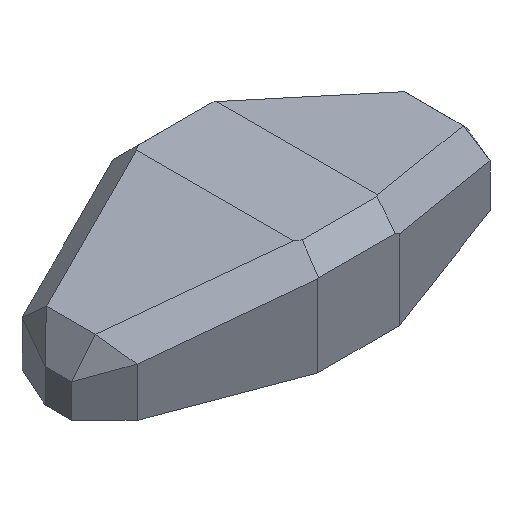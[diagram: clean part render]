
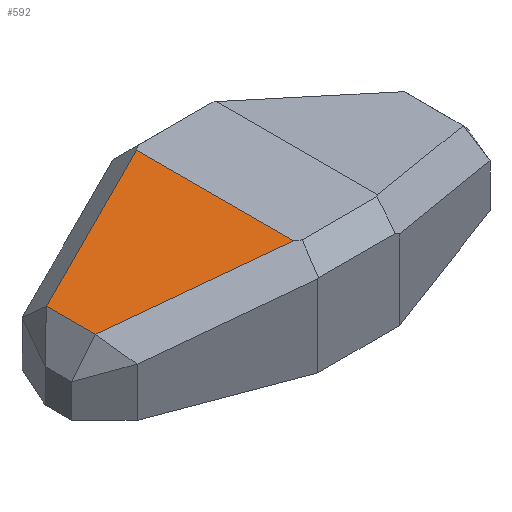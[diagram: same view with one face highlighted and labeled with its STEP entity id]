
A CAD part, isometric view. The second image highlights one B-rep face of the part: STEP entity #592.
In plain terms, the highlighted planar face has unit normal (-0.242, 0, 0.97).
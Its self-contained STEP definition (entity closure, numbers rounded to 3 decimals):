
#6 = ORIENTED_EDGE ( 'NONE', *, *, #45, .T. ) ;
#45 = EDGE_CURVE ( 'NONE', #142, #782, #786, .T. ) ;
#85 = CARTESIAN_POINT ( 'NONE',  ( -4.818, 0.484, 1.545 ) ) ;
#90 = CARTESIAN_POINT ( 'NONE',  ( -1., -2.5, 2.5 ) ) ;
#116 = ORIENTED_EDGE ( 'NONE', *, *, #500, .T. ) ;
#142 = VERTEX_POINT ( 'NONE', #865 ) ;
#146 = DIRECTION ( 'NONE',  ( -0.912, -0.342, -0.228 ) ) ;
#170 = FACE_OUTER_BOUND ( 'NONE', #668, .T. ) ;
#201 = VECTOR ( 'NONE', #146, 1000. ) ;
#221 = LINE ( 'NONE', #362, #355 ) ;
#224 = EDGE_CURVE ( 'NONE', #700, #142, #877, .T. ) ;
#266 = EDGE_CURVE ( 'NONE', #396, #700, #374, .T. ) ;
#302 = DIRECTION ( 'NONE',  ( 0., 1., 0. ) ) ;
#348 = CARTESIAN_POINT ( 'NONE',  ( -4.515, -1., 1.621 ) ) ;
#355 = VECTOR ( 'NONE', #514, 1000. ) ;
#362 = CARTESIAN_POINT ( 'NONE',  ( -0.818, -1.984, 2.545 ) ) ;
#367 = CARTESIAN_POINT ( 'NONE',  ( -1., -1.916, 2.5 ) ) ;
#374 = LINE ( 'NONE', #90, #582 ) ;
#393 = DIRECTION ( 'NONE',  ( 0.97, 0., 0.243 ) ) ;
#396 = VERTEX_POINT ( 'NONE', #367 ) ;
#402 = VECTOR ( 'NONE', #943, 1000. ) ;
#460 = PLANE ( 'NONE',  #496 ) ;
#475 = DIRECTION ( 'NONE',  ( -0.243, 0., 0.97 ) ) ;
#496 = AXIS2_PLACEMENT_3D ( 'NONE', #766, #475, #393 ) ;
#500 = EDGE_CURVE ( 'NONE', #782, #396, #221, .T. ) ;
#503 = CARTESIAN_POINT ( 'NONE',  ( -1., 1.916, 2.5 ) ) ;
#514 = DIRECTION ( 'NONE',  ( 0.912, -0.342, 0.228 ) ) ;
#549 = ORIENTED_EDGE ( 'NONE', *, *, #224, .T. ) ;
#582 = VECTOR ( 'NONE', #302, 1000. ) ;
#592 = ADVANCED_FACE ( 'NONE', ( #170 ), #460, .T. ) ;
#610 = ORIENTED_EDGE ( 'NONE', *, *, #266, .T. ) ;
#668 = EDGE_LOOP ( 'NONE', ( #6, #116, #610, #549 ) ) ;
#700 = VERTEX_POINT ( 'NONE', #503 ) ;
#766 = CARTESIAN_POINT ( 'NONE',  ( -1., -2.5, 2.5 ) ) ;
#782 = VERTEX_POINT ( 'NONE', #942 ) ;
#786 = LINE ( 'NONE', #348, #402 ) ;
#865 = CARTESIAN_POINT ( 'NONE',  ( -4.515, 0.598, 1.621 ) ) ;
#877 = LINE ( 'NONE', #85, #201 ) ;
#942 = CARTESIAN_POINT ( 'NONE',  ( -4.515, -0.598, 1.621 ) ) ;
#943 = DIRECTION ( 'NONE',  ( 0., -1., 0. ) ) ;
